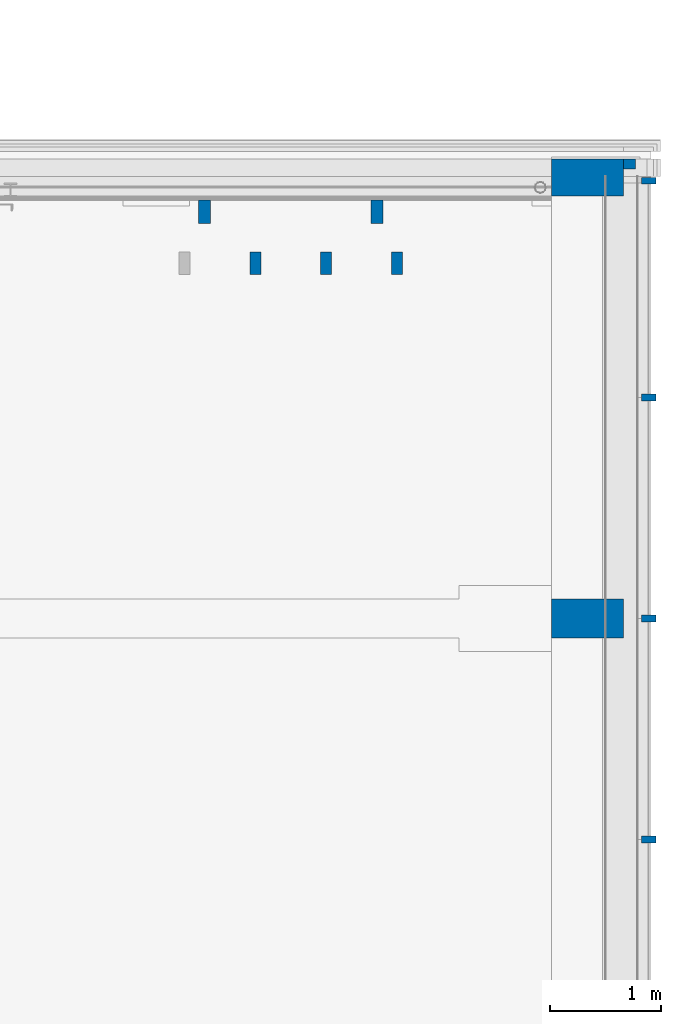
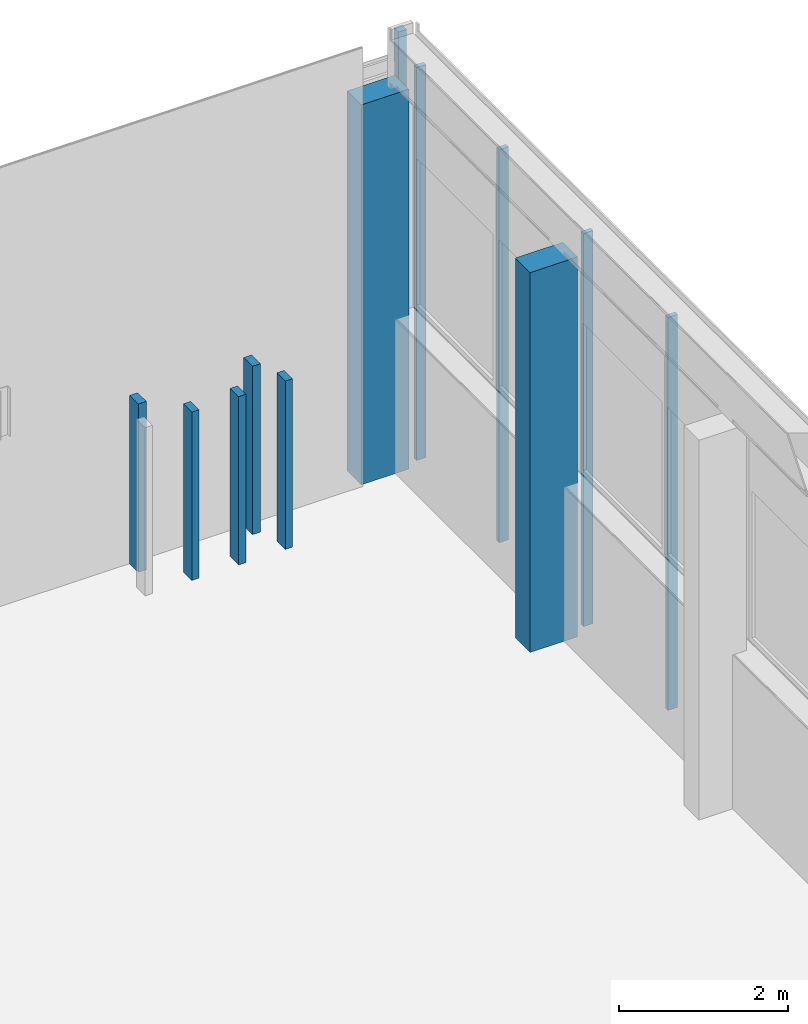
# One storey, part 9 of 109: 12 columns.
"""IFC2X3 building model written with IfcOpenShell, lengths in millimetres."""

from ifc_helpers import new_model, entity, si_unit, converted_unit, derived_unit, money_unit, direction, frame, origin_with_axes, place, context, subcontext, project, spatial, faceted_brep, material, type_object, element, save


model = new_model("IFC2X3")

# Units and contexts
model_context = context("Model", 3, precision=0.01, world=origin_with_axes(), true_north=direction((0.0, 1.0)))
body_context = subcontext(model_context, "Body", "Model", "MODEL_VIEW")
ifc_project = project(units=[si_unit("LENGTHUNIT", "METRE", prefix="MILLI"), si_unit("AREAUNIT", "SQUARE_METRE"), si_unit("VOLUMEUNIT", "CUBIC_METRE"), converted_unit("PLANEANGLEUNIT", "DEGREE", entity("IfcPlaneAngleMeasure", 0.0174532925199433), si_unit("PLANEANGLEUNIT", "RADIAN"), dimensions=[0, 0, 0, 0, 0, 0, 0]), money_unit("EUR"), converted_unit("TIMEUNIT", "Year", entity("IfcTimeMeasure", 31557600.0), si_unit("TIMEUNIT", "SECOND"), dimensions=[0, 0, 1, 0, 0, 0, 0]), si_unit("MASSUNIT", "GRAM", prefix="KILO"), si_unit("THERMODYNAMICTEMPERATUREUNIT", "DEGREE_CELSIUS"), si_unit("LUMINOUSINTENSITYUNIT", "LUMEN"), si_unit("ENERGYUNIT", "JOULE", prefix="MEGA"), derived_unit("THERMALCONDUCTANCEUNIT", [(si_unit("POWERUNIT", "WATT"), 1), (si_unit("LENGTHUNIT", "METRE"), -1), (si_unit("THERMODYNAMICTEMPERATUREUNIT", "KELVIN"), -1)]), derived_unit("SPECIFICHEATCAPACITYUNIT", [(si_unit("ENERGYUNIT", "JOULE"), 1), (si_unit("MASSUNIT", "GRAM", prefix="KILO"), -1), (si_unit("THERMODYNAMICTEMPERATUREUNIT", "KELVIN"), -1)]), derived_unit("MASSDENSITYUNIT", [(si_unit("MASSUNIT", "GRAM", prefix="KILO"), 1), (si_unit("VOLUMEUNIT", "CUBIC_METRE"), -1)])], contexts=[model_context])

# Site, building, storey
site_placement = place(None, origin_with_axes())
site = spatial("IfcSite", under=ifc_project, at=site_placement, Name="<site naam>", CompositionType="ELEMENT")
building_placement = place(site_placement, origin_with_axes())
building = spatial("IfcBuilding", under=site, at=building_placement, Name="<Naam gebouw>", CompositionType="ELEMENT")
storey_placement = place(building_placement, origin_with_axes())
storey = spatial("IfcBuildingStorey", under=building, at=storey_placement, Name="00 Begane grond", CompositionType="ELEMENT", Elevation=0.0)

# Columns
ifc_material_1 = material(Name="betonblok C")
column_type_1 = type_object("IfcColumnType", Name="betonblok C 350 x 650", PredefinedType="COLUMN")
column_1_placement = place(storey_placement, frame((69650.00000000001, 19999.99999999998, -30.0), z_axis=(0.0, 0.0, 1.0), x_axis=(0.0, -1.0, 0.0)))
element("IfcColumn", 1, at=column_1_placement, inside=storey, type_object=column_type_1, material=ifc_material_1, Name="28_Kolom_betonblok", ObjectType="COLUMN", context=body_context, shape_type="Brep", body=[
    faceted_brep([(-160.0000000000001, -325.0000000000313, 30.0), (-160.0000000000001, -325.0000000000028, 5524.999999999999), (-160.0000000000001, 324.9999999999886, 5524.999999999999), (-160.0000000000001, 325.0000000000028, 30.0), (175.0000000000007, -325.0000000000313, 30.0), (175.0000000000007, -325.0000000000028, 5524.999999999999), (175.0000000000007, 324.9999999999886, 5524.999999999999), (175.0000000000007, 325.0000000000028, 30.0)], [[[0, 1, 2, 3]], [[4, 5, 1, 0]], [[5, 6, 2, 1]], [[3, 2, 6, 7]], [[7, 4, 0, 3]], [[7, 6, 5, 4]]]),
])
column_2_placement = place(storey_placement, frame((69650.00000000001, 15999.99999999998, -30.0), z_axis=(0.0, 0.0, 1.0), x_axis=(0.0, -1.0, 0.0)))
element("IfcColumn", 2, at=column_2_placement, inside=storey, type_object=column_type_1, material=ifc_material_1, Name="28_Kolom_betonblok", ObjectType="COLUMN", context=body_context, shape_type="Brep", body=[
    faceted_brep([(-175.0000000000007, -325.0000000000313, 30.0), (-175.0000000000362, -325.0000000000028, 5524.999999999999), (-175.0000000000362, 325.0000000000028, 5524.999999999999), (-175.0000000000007, 325.0000000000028, 30.0), (175.0000000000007, -325.0000000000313, 30.0), (174.9999999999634, -325.0000000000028, 5524.999999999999), (174.9999999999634, 325.0000000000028, 5524.999999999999), (175.0000000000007, 325.0000000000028, 30.0)], [[[0, 1, 2, 3]], [[4, 5, 1, 0]], [[5, 6, 2, 1]], [[3, 2, 6, 7]], [[7, 4, 0, 3]], [[7, 6, 5, 4]]]),
])
ifc_material_2 = material(Name="aluminium")
column_type_2 = type_object("IfcColumnType", Name="aluminium 60 x 130", PredefinedType="COLUMN")
column_3_placement = place(storey_placement, frame((70205.00000000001, 16000.00000000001, 0.0), z_axis=(0.0, 0.0, 1.0), x_axis=(0.0, 1.0, 0.0)))
element("IfcColumn", 3, at=column_3_placement, inside=storey, type_object=column_type_2, material=ifc_material_2, Name="41_Kolom_aluminium", ObjectType="COLUMN", context=body_context, shape_type="Brep", body=[
    faceted_brep([(-29.99999999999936, -64.99999999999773, 5685.000037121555), (-29.99999999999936, -64.99999999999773, 0.0), (30.00000000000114, -64.99999999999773, 0.0), (30.00000000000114, -64.99999999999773, 5685.000037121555), (-29.99999999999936, 64.99999999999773, 5685.000037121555), (-29.99999999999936, 64.99999999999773, 0.0), (30.00000000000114, 64.99999999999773, 0.0), (30.00000000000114, 64.99999999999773, 5685.000037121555)], [[[0, 1, 2, 3]], [[4, 5, 1, 0]], [[2, 1, 5, 6]], [[3, 2, 6, 7]], [[4, 0, 3, 7]], [[7, 6, 5, 4]]]),
])
column_4_placement = place(storey_placement, frame((70205.00000000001, 13999.99999999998, 0.0), z_axis=(0.0, 0.0, 1.0), x_axis=(0.0, 1.0, 0.0)))
element("IfcColumn", 4, at=column_4_placement, inside=storey, type_object=column_type_2, material=ifc_material_2, Name="41_Kolom_aluminium", ObjectType="COLUMN", context=body_context, shape_type="Brep", body=[
    faceted_brep([(-30.00000000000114, -64.99999999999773, 5685.000037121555), (-30.00000000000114, -64.99999999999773, 0.0), (29.99999999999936, -64.99999999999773, 0.0), (29.99999999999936, -64.99999999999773, 5685.000037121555), (-30.00000000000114, 64.99999999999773, 5685.000037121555), (-30.00000000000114, 64.99999999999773, 0.0), (29.99999999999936, 64.99999999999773, 0.0), (29.99999999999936, 64.99999999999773, 5685.000037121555)], [[[0, 1, 2, 3]], [[4, 5, 1, 0]], [[2, 1, 5, 6]], [[3, 2, 6, 7]], [[4, 0, 3, 7]], [[7, 6, 5, 4]]]),
])
for number, where, z_axis, x_axis, name in (
    (5, (70205.00000000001, 19959.99999956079, 0.0), (0.0, 0.0, 1.0), (0.0, 1.0, 0.0), "41_Kolom_aluminium"),
    (6, (70205.00000000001, 17999.99999999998, 0.0), (0.0, 0.0, 1.0), (0.0, 1.0, 0.0), "41_Kolom_aluminium"),
):
    element("IfcColumn", number, at=place(storey_placement, frame(where, z_axis=z_axis, x_axis=x_axis)), inside=storey, type_object=column_type_2, material=ifc_material_2, Name=name, ObjectType="COLUMN", context=body_context, shape_type="Brep", body=[
        faceted_brep([(-29.99999999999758, -64.99999999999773, 5685.000037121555), (-29.99999999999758, -64.99999999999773, 0.0), (30.00000000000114, -64.99999999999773, 0.0), (30.00000000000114, -64.99999999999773, 5685.000037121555), (-29.99999999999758, 64.99999999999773, 5685.000037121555), (-29.99999999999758, 64.99999999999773, 0.0), (30.00000000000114, 64.99999999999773, 0.0), (30.00000000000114, 64.99999999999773, 5685.000037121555)], [[[0, 1, 2, 3]], [[4, 5, 1, 0]], [[2, 1, 5, 6]], [[3, 2, 6, 7]], [[4, 0, 3, 7]], [[7, 6, 5, 4]]]),
    ])
ifc_material_3 = material(Name="ALG - ALGEMEEN")
column_type_3 = type_object("IfcColumnType", Name="ALG - ALGEMEEN 110 x 210", PredefinedType="COLUMN")
for number, where, z_axis, x_axis, name in (
    (7, (66186.21708721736, 19679.99169346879, 0.0), (0.0, 0.0, 1.0), (1.0, 0.0, 0.0), "77_Kolom_ALG"),
    (8, (67746.21708721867, 19679.99169346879, 0.0), (0.0, 0.0, 1.0), (1.0, 0.0, 0.0), "77_Kolom_ALG"),
):
    element("IfcColumn", number, at=place(storey_placement, frame(where, z_axis=z_axis, x_axis=x_axis)), inside=storey, type_object=column_type_3, material=ifc_material_3, Name=name, ObjectType="COLUMN", context=body_context, shape_type="Brep", body=[
        faceted_brep([(55.0000708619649, -105.000537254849, 2437.500000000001), (55.0000708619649, -105.000537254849, 2.999999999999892), (55.0000708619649, 105.0081873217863, 2.999999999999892), (55.0000708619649, 105.000537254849, 2437.500000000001), (-55.0000708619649, -105.000537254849, 2437.500000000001), (-55.0000708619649, -105.000537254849, 2.999999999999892), (-55.0000708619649, 105.0081873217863, 2.999999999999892), (-55.0000708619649, 105.000537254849, 2437.500000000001)], [[[0, 1, 2, 3]], [[4, 5, 1, 0]], [[5, 6, 2, 1]], [[3, 2, 6, 7]], [[3, 7, 4, 0]], [[7, 6, 5, 4]]]),
    ])
column_type_4 = type_object("IfcColumnType", Name="ALG - ALGEMEEN 100 x 200", PredefinedType="COLUMN")
for number, where, z_axis, x_axis, name in (
    (9, (67926.21700316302, 19214.99223058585, 0.0), (0.0, 0.0, 1.0), (1.0, 0.0, 0.0), "77_Kolom_ALG"),
    (10, (67286.2170031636, 19214.99223058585, 0.0), (0.0, 0.0, 1.0), (1.0, 0.0, 0.0), "77_Kolom_ALG"),
    (11, (66646.21700316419, 19214.99223058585, 0.0), (0.0, 0.0, 1.0), (1.0, 0.0, 0.0), "77_Kolom_ALG"),
):
    element("IfcColumn", number, at=place(storey_placement, frame(where, z_axis=z_axis, x_axis=x_axis)), inside=storey, type_object=column_type_4, material=ifc_material_3, Name=name, ObjectType="COLUMN", context=body_context, shape_type="Brep", body=[
        faceted_brep([(50.00001319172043, -100.0000001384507, 2437.500000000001), (50.00001319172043, -100.0000001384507, 2.999999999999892), (50.00001319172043, 100.0000001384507, 2.999999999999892), (50.00001319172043, 100.0000001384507, 2437.500000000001), (-50.00001319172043, -100.0000001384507, 2437.500000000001), (-50.00001319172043, -100.0000001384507, 2.999999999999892), (-50.00001319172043, 100.0000001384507, 2.999999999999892), (-50.00001319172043, 100.0000001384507, 2437.500000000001)], [[[0, 1, 2, 3]], [[4, 5, 1, 0]], [[5, 6, 2, 1]], [[3, 2, 6, 7]], [[3, 7, 4, 0]], [[7, 6, 5, 4]]]),
    ])
column_type_5 = type_object("IfcColumnType", Name="betonblok C 108 x 110", PredefinedType="COLUMN")
column_5_placement = place(storey_placement, frame((70030.00000000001, 20121.14999999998, -30.00000000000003), z_axis=(0.0, 0.0, 1.0), x_axis=(0.0, -1.0, 0.0)))
element("IfcColumn", 12, at=column_5_placement, inside=storey, type_object=column_type_5, material=ifc_material_1, Name="28_Kolom_betonblok", ObjectType="COLUMN", context=body_context, shape_type="Brep", body=[
    faceted_brep([(-53.85000000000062, 55.00000000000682, 6205.0), (53.85000000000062, 55.00000000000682, 6205.0), (53.85000000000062, 55.00000000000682, 30.00000000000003), (-38.85000000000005, 55.00000000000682, 30.00000000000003), (-38.85000000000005, 55.00000000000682, 5715.000003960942), (-53.85000000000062, 55.00000000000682, 5715.000003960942), (-53.85000000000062, -54.99999999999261, 6205.0), (53.85000000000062, -54.99999999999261, 6205.0), (53.85000000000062, -54.99999999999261, 30.00000000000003), (-38.85000000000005, -54.99999999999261, 30.00000000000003), (-38.85000000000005, -54.99999999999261, 5715.000003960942), (-53.85000000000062, -54.99999999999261, 5715.000003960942)], [[[0, 1, 2, 3, 4, 5]], [[6, 7, 1, 0]], [[1, 7, 8, 2]], [[2, 8, 9, 3]], [[10, 4, 3, 9]], [[5, 4, 10, 11]], [[11, 6, 0, 5]], [[11, 10, 9, 8, 7, 6]]]),
])

save(model, "model.ifc")
